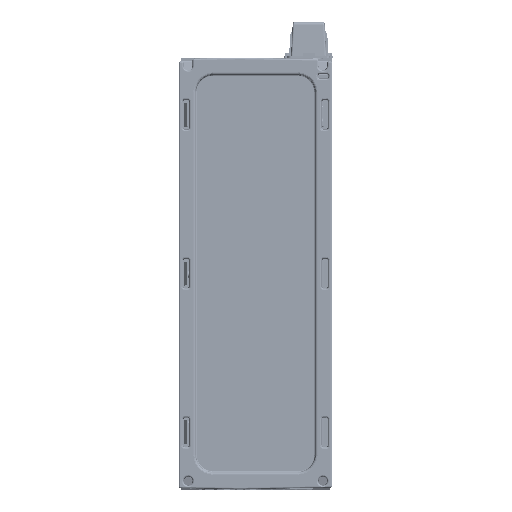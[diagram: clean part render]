
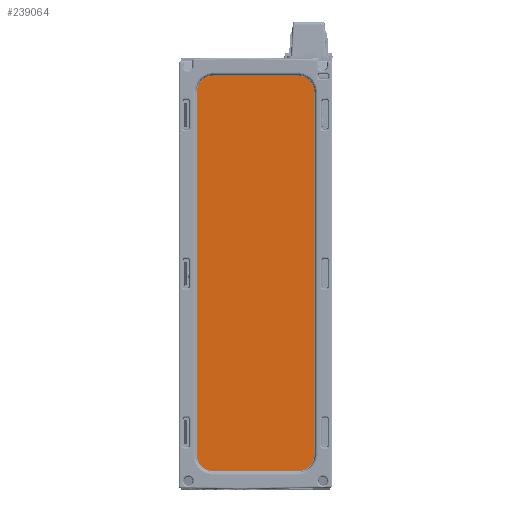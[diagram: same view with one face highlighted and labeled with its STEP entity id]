
A CAD part, top view. The second image highlights one B-rep face of the part: STEP entity #239064.
In plain terms, the highlighted planar face has unit normal (0, 0, 1).
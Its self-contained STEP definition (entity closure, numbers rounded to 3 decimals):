
#198732=CARTESIAN_POINT('',(70.902,105.,
114.739));
#198733=CARTESIAN_POINT('',(70.895,105.861,
114.739));
#198734=CARTESIAN_POINT('',(70.676,107.511,
114.739));
#198735=CARTESIAN_POINT('',(69.724,109.8,
114.739));
#198736=CARTESIAN_POINT('',(68.183,111.813,
114.739));
#198737=CARTESIAN_POINT('',(66.172,113.338,
114.739));
#198738=CARTESIAN_POINT('',(63.888,114.278,
114.739));
#198739=CARTESIAN_POINT('',(62.255,114.492,
114.739));
#198740=CARTESIAN_POINT('',(61.404,114.498,
114.739));
#198753=DIRECTION('',(0.,1.,0.));
#198754=VECTOR('',#198753,210.);
#198755=CARTESIAN_POINT('',(70.902,-105.,
114.739));
#198756=LINE('',#198755,#198754);
#198775=CARTESIAN_POINT('',(61.404,-114.498,
114.739));
#198776=CARTESIAN_POINT('',(62.265,-114.491,
114.739));
#198777=CARTESIAN_POINT('',(63.916,-114.272,
114.739));
#198778=CARTESIAN_POINT('',(66.204,-113.32,
114.739));
#198779=CARTESIAN_POINT('',(68.217,-111.779,
114.739));
#198780=CARTESIAN_POINT('',(69.742,-109.768,
114.739));
#198781=CARTESIAN_POINT('',(70.682,-107.484,
114.739));
#198782=CARTESIAN_POINT('',(70.896,-105.85,
114.739));
#198783=CARTESIAN_POINT('',(70.902,-105.,
114.739));
#198803=DIRECTION('',(1.,0.,0.));
#198804=VECTOR('',#198803,48.915);
#198805=CARTESIAN_POINT('',(12.489,-114.498,
114.739));
#198806=LINE('',#198805,#198804);
#198826=CARTESIAN_POINT('',(2.991,-105.,
114.739));
#198827=CARTESIAN_POINT('',(2.998,-105.861,
114.739));
#198828=CARTESIAN_POINT('',(3.216,-107.511,
114.739));
#198829=CARTESIAN_POINT('',(4.169,-109.8,
114.739));
#198830=CARTESIAN_POINT('',(5.71,-111.813,
114.739));
#198831=CARTESIAN_POINT('',(7.721,-113.338,
114.739));
#198832=CARTESIAN_POINT('',(10.005,-114.278,
114.739));
#198833=CARTESIAN_POINT('',(11.638,-114.492,
114.739));
#198834=CARTESIAN_POINT('',(12.489,-114.498,
114.739));
#198846=DIRECTION('',(0.,-1.,0.));
#198847=VECTOR('',#198846,210.);
#198848=CARTESIAN_POINT('',(2.991,105.,
114.739));
#198849=LINE('',#198848,#198847);
#198861=CARTESIAN_POINT('',(12.489,114.498,
114.739));
#198862=CARTESIAN_POINT('',(11.627,114.491,
114.739));
#198863=CARTESIAN_POINT('',(9.977,114.272,
114.739));
#198864=CARTESIAN_POINT('',(7.688,113.32,
114.739));
#198865=CARTESIAN_POINT('',(5.676,111.779,
114.739));
#198866=CARTESIAN_POINT('',(4.151,109.768,
114.739));
#198867=CARTESIAN_POINT('',(3.211,107.484,
114.739));
#198868=CARTESIAN_POINT('',(2.997,105.85,
114.739));
#198869=CARTESIAN_POINT('',(2.991,105.,
114.739));
#198882=DIRECTION('',(-1.,0.,0.));
#198883=VECTOR('',#198882,48.915);
#198884=CARTESIAN_POINT('',(61.404,114.498,
114.739));
#198885=LINE('',#198884,#198883);
#210152=CARTESIAN_POINT('',(70.902,105.,
114.739));
#210153=VERTEX_POINT('',#210152);
#210154=VERTEX_POINT('',#198740);
#210155=CARTESIAN_POINT('',(70.902,-105.,
114.739));
#210156=VERTEX_POINT('',#210155);
#210157=CARTESIAN_POINT('',(61.404,-114.498,
114.739));
#210158=VERTEX_POINT('',#210157);
#210159=CARTESIAN_POINT('',(12.489,-114.498,
114.739));
#210160=VERTEX_POINT('',#210159);
#210161=CARTESIAN_POINT('',(2.991,-105.,
114.739));
#210162=VERTEX_POINT('',#210161);
#210163=CARTESIAN_POINT('',(2.991,105.,
114.739));
#210164=VERTEX_POINT('',#210163);
#210165=CARTESIAN_POINT('',(12.489,114.498,
114.739));
#210166=VERTEX_POINT('',#210165);
#239049=CARTESIAN_POINT('',(0.,124.988,114.739));
#239050=DIRECTION('',(0.,0.,1.));
#239051=DIRECTION('',(0.,-1.,0.));
#239052=AXIS2_PLACEMENT_3D('',#239049,#239050,#239051);
#239053=PLANE('',#239052);
#239054=ORIENTED_EDGE('',*,*,#239042,.F.);
#239055=ORIENTED_EDGE('',*,*,#238944,.F.);
#239056=ORIENTED_EDGE('',*,*,#238959,.F.);
#239057=ORIENTED_EDGE('',*,*,#238973,.F.);
#239058=ORIENTED_EDGE('',*,*,#238989,.F.);
#239059=ORIENTED_EDGE('',*,*,#239003,.F.);
#239060=ORIENTED_EDGE('',*,*,#239017,.F.);
#239061=ORIENTED_EDGE('',*,*,#239029,.F.);
#239062=EDGE_LOOP('',(#239054,#239055,#239056,#239057,#239058,#239059,#239060,
#239061));
#239063=FACE_OUTER_BOUND('',#239062,.F.);
#198741=B_SPLINE_CURVE_WITH_KNOTS('',3,(#198732,#198733,#198734,#198735,#198736,
#198737,#198738,#198739,#198740),.UNSPECIFIED.,.F.,.F.,(4,1,1,1,1,1,4),(0.,
0.167,0.333,0.5,0.667,0.833,
1.),.UNSPECIFIED.);
#198784=B_SPLINE_CURVE_WITH_KNOTS('',3,(#198775,#198776,#198777,#198778,#198779,
#198780,#198781,#198782,#198783),.UNSPECIFIED.,.F.,.F.,(4,1,1,1,1,1,4),(0.,
0.167,0.333,0.5,0.667,0.833,
1.),.UNSPECIFIED.);
#198835=B_SPLINE_CURVE_WITH_KNOTS('',3,(#198826,#198827,#198828,#198829,#198830,
#198831,#198832,#198833,#198834),.UNSPECIFIED.,.F.,.F.,(4,1,1,1,1,1,4),(0.,
0.167,0.333,0.5,0.667,0.833,
1.),.UNSPECIFIED.);
#198870=B_SPLINE_CURVE_WITH_KNOTS('',3,(#198861,#198862,#198863,#198864,#198865,
#198866,#198867,#198868,#198869),.UNSPECIFIED.,.F.,.F.,(4,1,1,1,1,1,4),(0.,
0.167,0.333,0.5,0.667,0.833,
1.),.UNSPECIFIED.);
#238944=EDGE_CURVE('',#210153,#210154,#198741,.T.);
#238959=EDGE_CURVE('',#210156,#210153,#198756,.T.);
#238973=EDGE_CURVE('',#210158,#210156,#198784,.T.);
#238989=EDGE_CURVE('',#210160,#210158,#198806,.T.);
#239003=EDGE_CURVE('',#210162,#210160,#198835,.T.);
#239017=EDGE_CURVE('',#210164,#210162,#198849,.T.);
#239029=EDGE_CURVE('',#210166,#210164,#198870,.T.);
#239042=EDGE_CURVE('',#210154,#210166,#198885,.T.);
#239064=ADVANCED_FACE('',(#239063),#239053,.T.);
